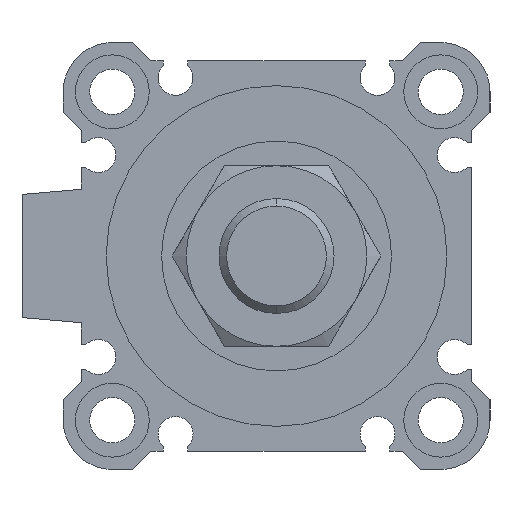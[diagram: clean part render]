
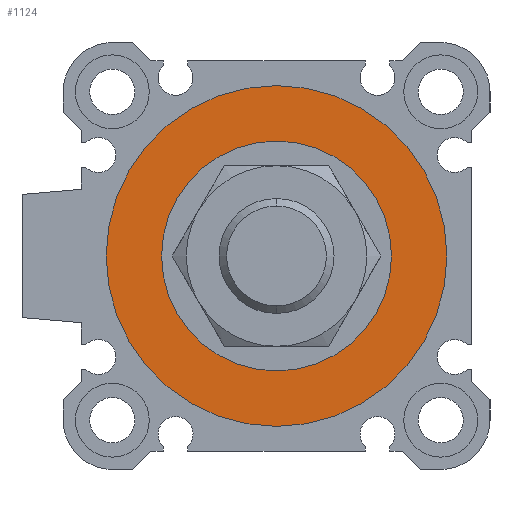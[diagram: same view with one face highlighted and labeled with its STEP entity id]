
A CAD part, left-side view. The second image highlights one B-rep face of the part: STEP entity #1124.
In plain terms, the highlighted planar face has unit normal (-1, 0, 0).
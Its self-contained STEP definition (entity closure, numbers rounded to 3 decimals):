
#74 = DIRECTION ( 'NONE',  ( 0., 0., -1. ) ) ;
#345 = AXIS2_PLACEMENT_3D ( 'NONE', #2568, #989, #2084 ) ;
#354 = AXIS2_PLACEMENT_3D ( 'NONE', #5921, #6872, #74 ) ;
#545 = DIRECTION ( 'NONE',  ( 1., 0., 0. ) ) ;
#580 = FACE_OUTER_BOUND ( 'NONE', #1216, .T. ) ;
#989 = DIRECTION ( 'NONE',  ( 1., 0., 0. ) ) ;
#1124 = ADVANCED_FACE ( 'NONE', ( #580, #6393 ), #5407, .F. ) ;
#1157 = EDGE_CURVE ( 'NONE', #5890, #6406, #1834, .T. ) ;
#1216 = EDGE_LOOP ( 'NONE', ( #5755, #6079 ) ) ;
#1532 = DIRECTION ( 'NONE',  ( 1., 0., 0. ) ) ;
#1602 = CARTESIAN_POINT ( 'NONE',  ( 3.3, 0., 0. ) ) ;
#1834 = CIRCLE ( 'NONE', #4319, 20.75 ) ;
#1876 = AXIS2_PLACEMENT_3D ( 'NONE', #6218, #3551, #6857 ) ;
#2084 = DIRECTION ( 'NONE',  ( 0., 0., -1. ) ) ;
#2349 = EDGE_LOOP ( 'NONE', ( #3877, #6932 ) ) ;
#2502 = AXIS2_PLACEMENT_3D ( 'NONE', #1602, #545, #4372 ) ;
#2545 = CARTESIAN_POINT ( 'NONE',  ( 3.3, 0., 20.75 ) ) ;
#2568 = CARTESIAN_POINT ( 'NONE',  ( 3.3, 0., 0. ) ) ;
#2661 = CIRCLE ( 'NONE', #1876, 20.75 ) ;
#2733 = CARTESIAN_POINT ( 'NONE',  ( 3.3, 0., -14. ) ) ;
#2882 = CARTESIAN_POINT ( 'NONE',  ( 3.3, 0., -20.75 ) ) ;
#3275 = EDGE_CURVE ( 'NONE', #5954, #4508, #3401, .T. ) ;
#3401 = CIRCLE ( 'NONE', #354, 14. ) ;
#3551 = DIRECTION ( 'NONE',  ( 1., 0., 0. ) ) ;
#3877 = ORIENTED_EDGE ( 'NONE', *, *, #3275, .T. ) ;
#4319 = AXIS2_PLACEMENT_3D ( 'NONE', #6003, #1532, #5865 ) ;
#4372 = DIRECTION ( 'NONE',  ( 0., 1., 0. ) ) ;
#4508 = VERTEX_POINT ( 'NONE', #2733 ) ;
#4647 = CIRCLE ( 'NONE', #345, 14. ) ;
#5322 = EDGE_CURVE ( 'NONE', #4508, #5954, #4647, .T. ) ;
#5407 = PLANE ( 'NONE',  #2502 ) ;
#5755 = ORIENTED_EDGE ( 'NONE', *, *, #1157, .F. ) ;
#5865 = DIRECTION ( 'NONE',  ( 0., 0., -1. ) ) ;
#5890 = VERTEX_POINT ( 'NONE', #2545 ) ;
#5921 = CARTESIAN_POINT ( 'NONE',  ( 3.3, 0., 0. ) ) ;
#5954 = VERTEX_POINT ( 'NONE', #6990 ) ;
#6003 = CARTESIAN_POINT ( 'NONE',  ( 3.3, 0., 0. ) ) ;
#6079 = ORIENTED_EDGE ( 'NONE', *, *, #6483, .F. ) ;
#6218 = CARTESIAN_POINT ( 'NONE',  ( 3.3, 0., 0. ) ) ;
#6393 = FACE_BOUND ( 'NONE', #2349, .T. ) ;
#6406 = VERTEX_POINT ( 'NONE', #2882 ) ;
#6483 = EDGE_CURVE ( 'NONE', #6406, #5890, #2661, .T. ) ;
#6857 = DIRECTION ( 'NONE',  ( 0., 0., -1. ) ) ;
#6872 = DIRECTION ( 'NONE',  ( 1., 0., 0. ) ) ;
#6932 = ORIENTED_EDGE ( 'NONE', *, *, #5322, .T. ) ;
#6990 = CARTESIAN_POINT ( 'NONE',  ( 3.3, 0., 14. ) ) ;
